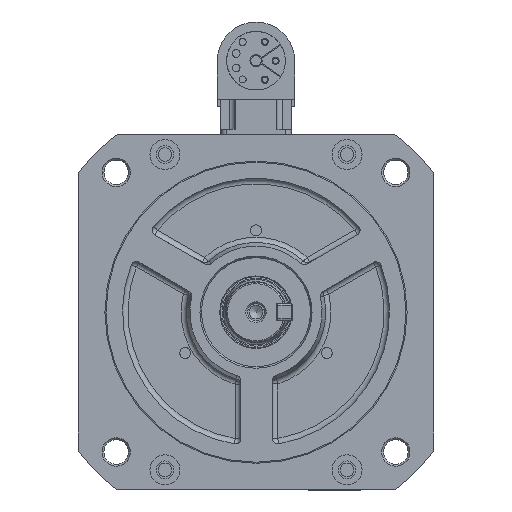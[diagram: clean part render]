
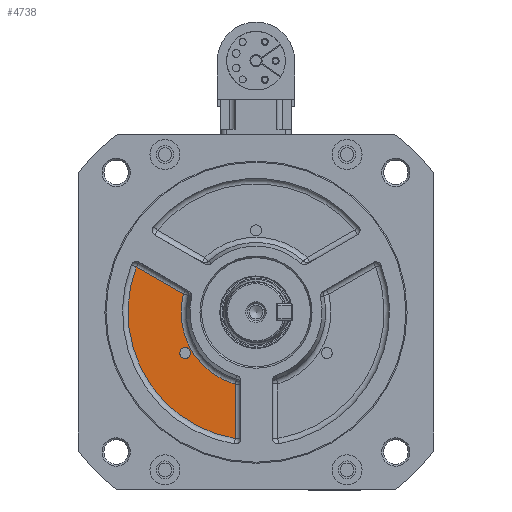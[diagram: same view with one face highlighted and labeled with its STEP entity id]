
A CAD part, left-side view. The second image highlights one B-rep face of the part: STEP entity #4738.
In plain terms, the highlighted planar face has unit normal (-1, 0, 0) as drawn and (0, -1, 0) by its records, which use the part's own axes.
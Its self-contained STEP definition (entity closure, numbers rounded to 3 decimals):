
#4738 = ADVANCED_FACE( '', ( #9990, #9991 ), #9992, .T. );
#9990 = FACE_OUTER_BOUND( '', #18744, .T. );
#9991 = FACE_BOUND( '', #18745, .T. );
#9992 = PLANE( '', #18746 );
#18744 = EDGE_LOOP( '', ( #33009, #33010, #33011, #33012 ) );
#18745 = EDGE_LOOP( '', ( #33013 ) );
#18746 = AXIS2_PLACEMENT_3D( '', #33014, #33015, #33016 );
#33009 = ORIENTED_EDGE( '', *, *, #41061, .T. );
#33010 = ORIENTED_EDGE( '', *, *, #40815, .T. );
#33011 = ORIENTED_EDGE( '', *, *, #40999, .T. );
#33012 = ORIENTED_EDGE( '', *, *, #37777, .T. );
#33013 = ORIENTED_EDGE( '', *, *, #41756, .T. );
#33014 = CARTESIAN_POINT( '', ( 0.069, -28., 0.04 ) );
#33015 = DIRECTION( '', ( 0., -1., 0. ) );
#33016 = DIRECTION( '', ( 0., 0., -1. ) );
#37777 = EDGE_CURVE( '', #45086, #45091, #45093, .T. );
#40815 = EDGE_CURVE( '', #48793, #49218, #49615, .T. );
#40999 = EDGE_CURVE( '', #49218, #45086, #49850, .T. );
#41061 = EDGE_CURVE( '', #45091, #48793, #49927, .T. );
#41756 = EDGE_CURVE( '', #50738, #50738, #50739, .T. );
#45086 = VERTEX_POINT( '', #57603 );
#45091 = VERTEX_POINT( '', #57608 );
#45093 = CIRCLE( '', #57610, 27.5 );
#48793 = VERTEX_POINT( '', #64060 );
#49218 = VERTEX_POINT( '', #64982 );
#49615 = CIRCLE( '', #65880, 47. );
#49850 = LINE( '', #66538, #66539 );
#49927 = LINE( '', #66773, #66774 );
#50738 = VERTEX_POINT( '', #68393 );
#50739 = CIRCLE( '', #68394, 2. );
#57603 = CARTESIAN_POINT( '', ( -7.596, -28., -26.43 ) );
#57608 = CARTESIAN_POINT( '', ( -26.687, -28., 6.637 ) );
#57610 = AXIS2_PLACEMENT_3D( '', #71486, #71487, #71488 );
#64060 = CARTESIAN_POINT( '', ( -43.922, -28., 16.587 ) );
#64982 = CARTESIAN_POINT( '', ( -7.596, -28., -46.331 ) );
#65880 = AXIS2_PLACEMENT_3D( '', #75630, #75631, #75632 );
#66538 = CARTESIAN_POINT( '', ( -7.596, -28., 0.04 ) );
#66539 = VECTOR( '', #75846, 1000. );
#66773 = CARTESIAN_POINT( '', ( -3.763, -28., -6.599 ) );
#66774 = VECTOR( '', #75909, 1000. );
#68393 = CARTESIAN_POINT( '', ( -24.249, -28., -14. ) );
#68394 = AXIS2_PLACEMENT_3D( '', #76704, #76705, #76706 );
#71486 = CARTESIAN_POINT( '', ( 0., -28., 0. ) );
#71487 = DIRECTION( '', ( 0., 1., 0. ) );
#71488 = DIRECTION( '', ( 0., 0., -1. ) );
#75630 = CARTESIAN_POINT( '', ( 0.069, -28., 0.04 ) );
#75631 = DIRECTION( '', ( 0., -1., 0. ) );
#75632 = DIRECTION( '', ( 0., 0., -1. ) );
#75846 = DIRECTION( '', ( 0., 0., 1. ) );
#75909 = DIRECTION( '', ( -0.866, 0., 0.5 ) );
#76704 = CARTESIAN_POINT( '', ( -25.981, -28., -15. ) );
#76705 = DIRECTION( '', ( 0., 1., 0. ) );
#76706 = DIRECTION( '', ( 0.866, 0., 0.5 ) );
